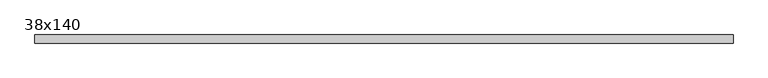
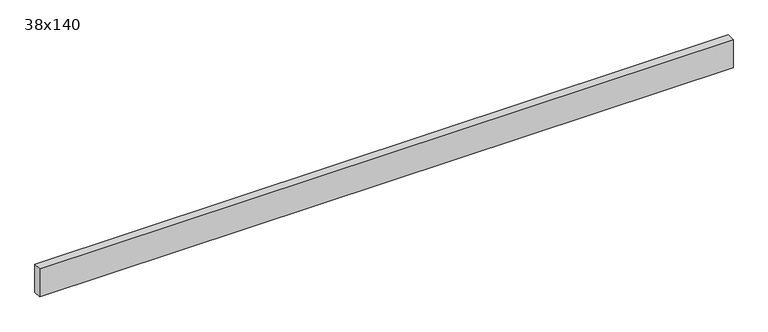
"""IFC4 building model written with IfcOpenShell, lengths in millimetres: beam geometry, Graded Timber : 38x140."""

from ifc_helpers import new_model, si_unit, frame, origin, place, context, project, spatial, polyline, outline, extrude, source, transform, mapped, element, save


def beam_38x140_0763ffc5(model_context):
    return source(origin(), model_context, "Body", "SweptSolid", [
        extrude(outline(polyline([(1549.5, 19.0), (1549.5, -19.0), (-1724.8724208, -19.0), (-1724.8724208, 19.0), (1549.5, 19.0)])), frame((0.0, 0.0, -70.0), z_axis=(0.0, 0.0, 1.0), x_axis=(1.0, 0.0, 0.0)), (0.0, 0.0, 1.0), 140.0),
    ])


if __name__ == "__main__":
    model = new_model("IFC4")
    model_context = context("Model", 3, world=origin())
    ifc_project = project(units=[si_unit("LENGTHUNIT", "METRE", prefix="MILLI")], contexts=[model_context])
    site = spatial("IfcSite", under=ifc_project)
    building = spatial("IfcBuilding", under=site)
    placement = place(None, origin())
    beam_38x140_shape = beam_38x140_0763ffc5(model_context)
    element("IfcBeam", 1, ObjectType="Graded Timber : 38x140", at=placement, inside=building, context=model_context, shape_type="MappedRepresentation", body=[
        mapped(beam_38x140_shape, transform((0.0, 0.0, 0.0), x_axis=(1.0, 0.0, 0.0), y_axis=(0.0, 1.0, 0.0), z_axis=(0.0, 0.0, 1.0))),
    ])
    save(model, "model.ifc")
